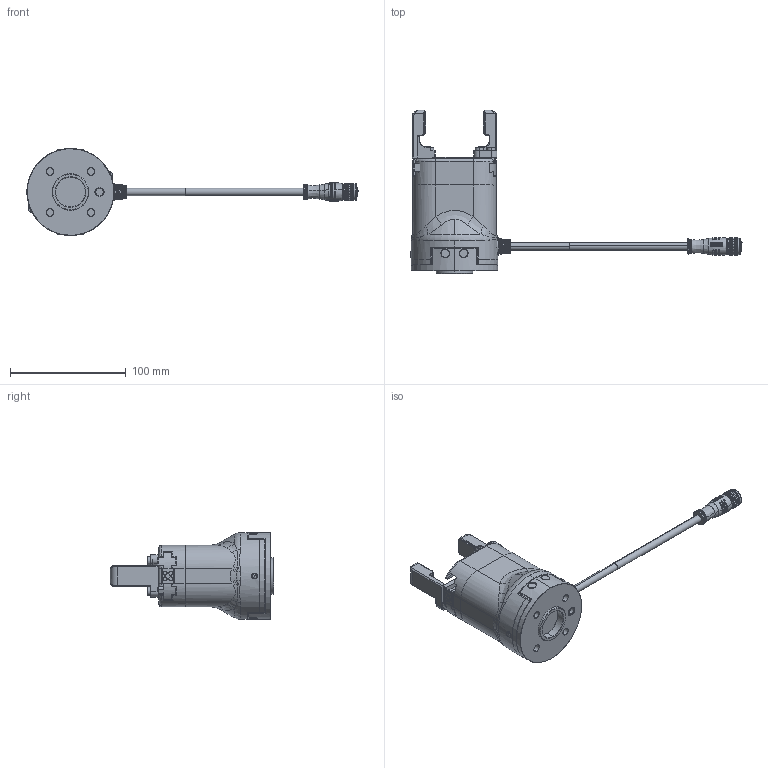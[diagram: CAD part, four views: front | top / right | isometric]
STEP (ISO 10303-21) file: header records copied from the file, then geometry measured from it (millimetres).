
FILE_DESCRIPTION (( 'STEP AP203' ), '1' );
FILE_NAME ('PGC-140-50-W-S_潠眢耀倰_v4.0_20240814.STEP', '2024-08-14T02:08:04', ( '' ), ( '' ), 'SwSTEP 2.0', 'SolidWorks 2020', '' );
FILE_SCHEMA (( 'CONFIG_CONTROL_DESIGN' ));
Length unit declared in the file: millimetre
Products named in the file (3): 湍硌潑--價极; 湍硌潑--價釱硌潑; PGC-140-50-W-S_潠眢耀倰_v4.0_20240814
Assembly tree (3 placements, depth 2):
  PGC-140-50-W-S_潠眢耀倰_v4.0_20240814
    湍硌潑--價极
    湍硌潑--價釱硌潑  x2
Bounding box: 286.4 x 141 x 75 mm (x, y, z)
Volume: 29997.8 mm3; surface area: 86908.1 mm2
Topology: 10 solids, 40 shells, 1570 faces, 3863 edges, 2417 vertices
Faces by surface type: plane 568, cylinder 423, bspline 299, cone 234, torus 44, sphere 2
Full cylindrical faces by diameter (mm): 11.1 x2
Entity records: 70650 total; most frequent: CARTESIAN_POINT 44340, ORIENTED_EDGE 6995, EDGE_CURVE 3503, B_SPLINE_CURVE_WITH_KNOTS 2939, DIRECTION 2700, VERTEX_POINT 2213, EDGE_LOOP 1565, ADVANCED_FACE 1437
